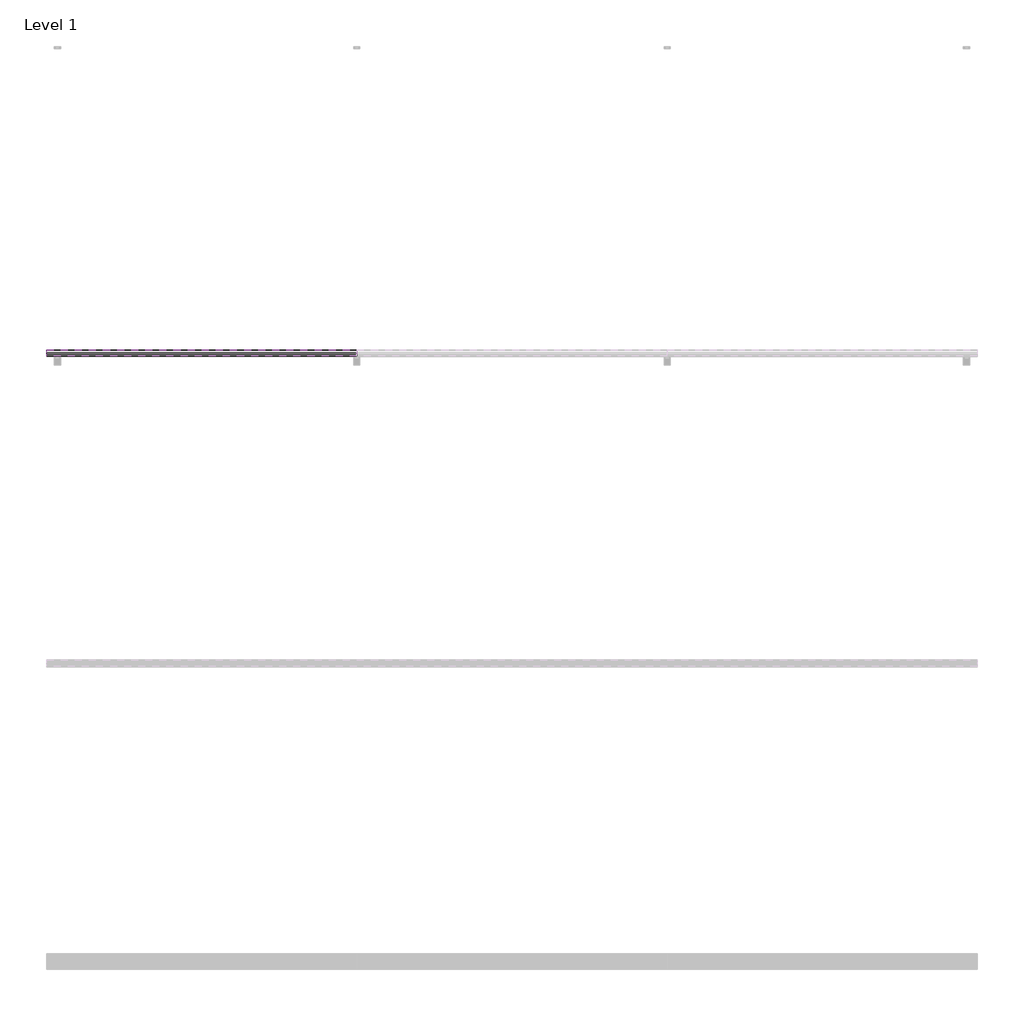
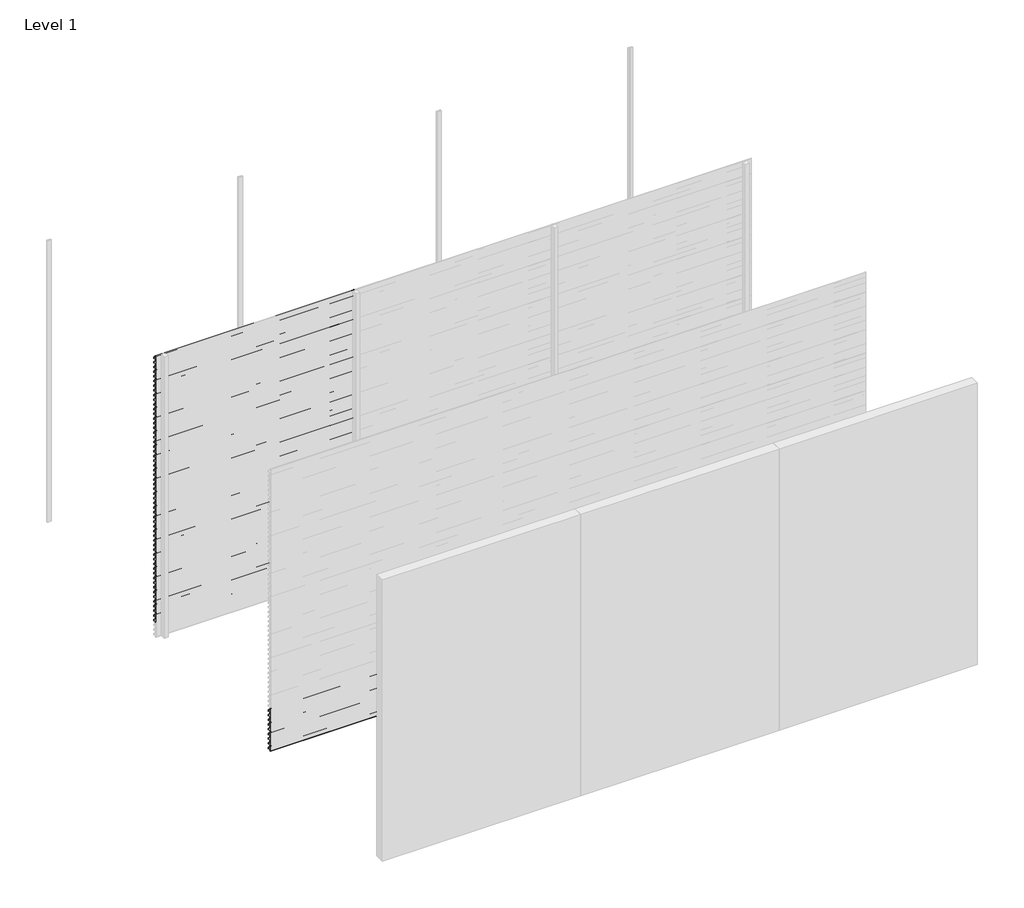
# One storey, part 18 of 38: 66 proxies.
"""IFC4 building model written with IfcOpenShell, lengths in millimetres."""

import ifcopenshell
import ifcopenshell.guid

model = None  # the IFC model being written
_history = None  # IfcOwnerHistory: only IFC2X3 demands one
_inside = {}  # id of a spatial element -> (the spatial element, [elements in it])
_under = {}  # id of a project, library or spatial element -> (it, [spatial elements below it])
_declared = {}  # id of a project -> (the project, [libraries it declares])
_typed = {}  # id of a type object -> (the type object, [elements of that type])
_made_of = {}  # id of a material, layer set ... -> (it, [elements and type objects made of it])


def new_model(schema):
    """Start an empty IFC model of exactly this schema.

    Asked for "IFC4X3", IfcOpenShell would pick the latest addendum, in which some entities
    have other attributes; the version numbers below select the first issue.
    IFC2X3 requires an IfcOwnerHistory on every rooted entity: one is made here for all.
    """
    global model, _history
    if schema == "IFC4X3":
        model = ifcopenshell.file(schema_version=(4, 3, 0, 0))
    else:
        model = ifcopenshell.file(schema=schema)
    _inside.clear()
    _under.clear()
    _declared.clear()
    _typed.clear()
    _made_of.clear()
    _history = None
    if model.schema == "IFC2X3":
        org = make("IfcOrganization", Name="unknown")
        user = make(
            "IfcPersonAndOrganization",
            ThePerson=make("IfcPerson", FamilyName="unknown"),
            TheOrganization=org,
        )
        app = make(
            "IfcApplication",
            ApplicationDeveloper=org,
            Version="unknown",
            ApplicationFullName="unknown",
            ApplicationIdentifier="unknown",
        )
        _history = make(
            "IfcOwnerHistory",
            OwningUser=user,
            OwningApplication=app,
            ChangeAction="ADDED",
            CreationDate=0,
        )
    return model


def make(cls, **values):
    """One entity of the class cls with the attributes given. An attribute that is None is left unset."""
    return model.create_entity(
        cls, **{name: value for name, value in values.items() if value is not None}
    )


def rooted(cls, **values):
    """An entity with a GlobalId (a new one), such as an element, a storey or a relation."""
    return make(cls, GlobalId=ifcopenshell.guid.new(), OwnerHistory=_history, **values)


def si_unit(unit_type, name, prefix=None):
    """IfcSIUnit, for example si_unit("LENGTHUNIT", "METRE", prefix="MILLI")."""
    return make("IfcSIUnit", UnitType=unit_type, Prefix=prefix, Name=name)


def assignment(units):
    """IfcUnitAssignment: the units of a project."""
    return None if units is None else make("IfcUnitAssignment", Units=units)


def point(xyz):
    """IfcCartesianPoint."""
    return None if xyz is None else make("IfcCartesianPoint", Coordinates=xyz)


def direction(xyz):
    """IfcDirection."""
    return None if xyz is None else make("IfcDirection", DirectionRatios=xyz)


def frame(location, z_axis=None, x_axis=None):
    """IfcAxis2Placement3D, a coordinate frame: its origin and axes. An axis left out is left unset."""
    return make(
        "IfcAxis2Placement3D",
        Location=point(location),
        Axis=direction(z_axis),
        RefDirection=direction(x_axis),
    )


def origin():
    """The frame at (0, 0, 0) with its axes left unset."""
    return frame((0.0, 0.0, 0.0))


def place(relative_to, where):
    """IfcLocalPlacement: puts the frame where relative to a parent placement (None: the world)."""
    return make(
        "IfcLocalPlacement", PlacementRelTo=relative_to, RelativePlacement=where
    )


def context(
    kind, dimensions, precision=None, world=None, true_north=None, identifier=None
):
    """IfcGeometricRepresentationContext, for example the 3D "Model" context."""
    return make(
        "IfcGeometricRepresentationContext",
        ContextIdentifier=identifier,
        ContextType=kind,
        CoordinateSpaceDimension=dimensions,
        Precision=precision,
        WorldCoordinateSystem=world,
        TrueNorth=true_north,
    )


def project(units=None, contexts=None):
    """IfcProject with its units and contexts."""
    return rooted(
        "IfcProject",
        Name="project",
        RepresentationContexts=contexts,
        UnitsInContext=assignment(units),
    )


def spatial(cls, under=None, at=None, **own):
    """A site, building, storey or space (cls), placed at a placement, below another one or the project."""
    s = rooted(cls, ObjectPlacement=at, **own)
    if under is not None:
        _under.setdefault(under.id(), (under, []))[1].append(s)
    return s


def polyline(points):
    """IfcPolyline through the points."""
    return make("IfcPolyline", Points=[point(p) for p in points])


def outline(outer, holes=None, kind="AREA"):
    """IfcArbitraryClosedProfileDef: a profile drawn as a closed curve; with holes, ...WithVoids."""
    if holes is None:
        return make("IfcArbitraryClosedProfileDef", ProfileType=kind, OuterCurve=outer)
    return make(
        "IfcArbitraryProfileDefWithVoids",
        ProfileType=kind,
        OuterCurve=outer,
        InnerCurves=holes,
    )


def extrude(swept, where, along, depth):
    """IfcExtrudedAreaSolid: the profile swept, set in the frame where, extruded along a direction by depth."""
    return make(
        "IfcExtrudedAreaSolid",
        SweptArea=swept,
        Position=where,
        ExtrudedDirection=direction(along),
        Depth=depth,
    )


def shape(context_of_items, identifier, shape_type, items):
    """IfcShapeRepresentation: the items that make up one representation, for example the "Body"."""
    return make(
        "IfcShapeRepresentation",
        ContextOfItems=context_of_items,
        RepresentationIdentifier=identifier,
        RepresentationType=shape_type,
        Items=items,
    )


def made_of(thing, what):
    """Note that an element or type object is made of a material, layer set ...; save() writes the relation."""
    if what is not None:
        _made_of.setdefault(what.id(), (what, []))[1].append(thing)
    return thing


def element(
    cls,
    number,
    at=None,
    inside=None,
    cuts=None,
    type_object=None,
    material=None,
    context=None,
    identifier="Body",
    shape_type=None,
    held_by="IfcProductDefinitionShape",
    body=None,
    shapes=None,
    **own,
):
    """One element of the class cls, such as IfcWall. Its Tag is "e" and its number.

    at: its placement. inside: the storey or other place that contains it. cuts: it is an
    opening in that element (IfcRelVoidsElement). A single representation is given by context,
    identifier, shape_type and body (its items); several are given by shapes. held_by: the class
    of the entity that holds the representations. save() writes the other relations.
    """
    e = rooted(cls, Tag="e%d" % number, ObjectPlacement=at, **own)
    if body is not None:
        shapes = [shape(context, identifier, shape_type, body)]
    if shapes is not None:
        e.Representation = make(held_by, Representations=shapes)
    if inside is not None:
        _inside.setdefault(inside.id(), (inside, []))[1].append(e)
    if cuts is not None:
        rooted(
            "IfcRelVoidsElement", RelatingBuildingElement=cuts, RelatedOpeningElement=e
        )
    if type_object is not None:
        _typed.setdefault(type_object.id(), (type_object, []))[1].append(e)
    return made_of(e, material)


def aggregate(whole, parts):
    """IfcRelAggregates: a whole, such as a stair, and the parts it consists of."""
    return rooted("IfcRelAggregates", RelatingObject=whole, RelatedObjects=parts)


def save(model, path):
    """Write the relations noted so far, then the file.

    IfcRelAggregates (storeys below a building ...), IfcRelContainedInSpatialStructure (elements
    in a storey), IfcRelDefinesByType, IfcRelAssociatesMaterial and IfcRelDeclares: one each for
    every whole, place, type object, material and project.
    """
    for whole, parts in _under.values():
        aggregate(whole, parts)
    for where, things in _inside.values():
        rooted(
            "IfcRelContainedInSpatialStructure",
            RelatedElements=things,
            RelatingStructure=where,
        )
    for kind, things in _typed.values():
        rooted("IfcRelDefinesByType", RelatedObjects=things, RelatingType=kind)
    for what, things in _made_of.values():
        rooted("IfcRelAssociatesMaterial", RelatedObjects=things, RelatingMaterial=what)
    for by, libraries in _declared.values():
        rooted("IfcRelDeclares", RelatingContext=by, RelatedDefinitions=libraries)
    model.write(path)


model = new_model("IFC4")

# Units and contexts
model_context = context("Model", 3, world=origin())
ifc_project = project(units=[si_unit("LENGTHUNIT", "METRE", prefix="MILLI")], contexts=[model_context])

# Site, building, storey
site = spatial("IfcSite", under=ifc_project)
building = spatial("IfcBuilding", under=site)
storey = spatial("IfcBuildingStorey", under=building, Name="Level 1", Elevation=0.0)

# Proxies
placement = place(None, origin())
element("IfcBuildingElementProxy", 1, Name="Wall Sweeps", at=placement, inside=storey, context=model_context, shape_type="SweptSolid", body=[
    extrude(outline(polyline([(-29996.75, 3000.0), (-29996.75, 2989.19656), (-29974.6057113, 2976.4115489), (-29957.0, 2959.0472005), (-29957.0, 2944.0472005), (-29958.3, 2945.0268207), (-29958.3, 2958.5034593), (-29969.4914725, 2969.541504), (-29994.2797376, 2940.0), (-29995.9767671, 2940.0), (-29970.4200307, 2970.4573323), (-29975.3999793, 2975.3690091), (-29998.0, 2988.4171371), (-29998.0, 3000.0), (-29996.75, 3000.0)])), frame((0.0, 0.0, 0.0), z_axis=(1.0, 0.0, 0.0), x_axis=(0.0, 1.0, 0.0)), (0.0, 0.0, 1.0), 2000.0),
])
element("IfcBuildingElementProxy", 2, Name="Wall Sweeps", at=placement, inside=storey, context=model_context, shape_type="SweptSolid", body=[
    extrude(outline(polyline([(-29996.75, 2950.0), (-29996.75, 2939.19656), (-29974.6057113, 2926.4115489), (-29957.0, 2909.0472005), (-29957.0, 2894.0472005), (-29958.3, 2895.0268207), (-29958.3, 2908.5034593), (-29969.4914725, 2919.541504), (-29994.2797376, 2890.0), (-29995.9767671, 2890.0), (-29970.4200307, 2920.4573323), (-29975.3999793, 2925.3690091), (-29998.0, 2938.4171371), (-29998.0, 2950.0), (-29996.75, 2950.0)])), frame((0.0, 0.0, 0.0), z_axis=(1.0, 0.0, 0.0), x_axis=(0.0, 1.0, 0.0)), (0.0, 0.0, 1.0), 2000.0),
])
element("IfcBuildingElementProxy", 3, Name="Wall Sweeps", at=placement, inside=storey, context=model_context, shape_type="SweptSolid", body=[
    extrude(outline(polyline([(-29996.75, 2900.0), (-29996.75, 2889.19656), (-29974.6057113, 2876.4115489), (-29957.0, 2859.0472005), (-29957.0, 2844.0472005), (-29958.3, 2845.0268207), (-29958.3, 2858.5034593), (-29969.4914725, 2869.541504), (-29994.2797376, 2840.0), (-29995.9767671, 2840.0), (-29970.4200307, 2870.4573323), (-29975.3999793, 2875.3690091), (-29998.0, 2888.4171371), (-29998.0, 2900.0), (-29996.75, 2900.0)])), frame((0.0, 0.0, 0.0), z_axis=(1.0, 0.0, 0.0), x_axis=(0.0, 1.0, 0.0)), (0.0, 0.0, 1.0), 2000.0),
])
element("IfcBuildingElementProxy", 4, Name="Wall Sweeps", at=placement, inside=storey, context=model_context, shape_type="SweptSolid", body=[
    extrude(outline(polyline([(-29996.75, 2850.0), (-29996.75, 2839.19656), (-29974.6057113, 2826.4115489), (-29957.0, 2809.0472005), (-29957.0, 2794.0472005), (-29958.3, 2795.0268207), (-29958.3, 2808.5034593), (-29969.4914725, 2819.541504), (-29994.2797376, 2790.0), (-29995.9767671, 2790.0), (-29970.4200307, 2820.4573323), (-29975.3999793, 2825.3690091), (-29998.0, 2838.4171371), (-29998.0, 2850.0), (-29996.75, 2850.0)])), frame((0.0, 0.0, 0.0), z_axis=(1.0, 0.0, 0.0), x_axis=(0.0, 1.0, 0.0)), (0.0, 0.0, 1.0), 2000.0),
])
element("IfcBuildingElementProxy", 5, Name="Wall Sweeps", at=placement, inside=storey, context=model_context, shape_type="SweptSolid", body=[
    extrude(outline(polyline([(-29996.75, 2800.0), (-29996.75, 2789.19656), (-29974.6057113, 2776.4115489), (-29957.0, 2759.0472005), (-29957.0, 2744.0472005), (-29958.3, 2745.0268207), (-29958.3, 2758.5034593), (-29969.4914725, 2769.541504), (-29994.2797376, 2740.0), (-29995.9767671, 2740.0), (-29970.4200307, 2770.4573323), (-29975.3999793, 2775.3690091), (-29998.0, 2788.4171371), (-29998.0, 2800.0), (-29996.75, 2800.0)])), frame((0.0, 0.0, 0.0), z_axis=(1.0, 0.0, 0.0), x_axis=(0.0, 1.0, 0.0)), (0.0, 0.0, 1.0), 2000.0),
])
element("IfcBuildingElementProxy", 6, Name="Wall Sweeps", at=placement, inside=storey, context=model_context, shape_type="SweptSolid", body=[
    extrude(outline(polyline([(-29996.75, 2750.0), (-29996.75, 2739.19656), (-29974.6057113, 2726.4115489), (-29957.0, 2709.0472005), (-29957.0, 2694.0472005), (-29958.3, 2695.0268207), (-29958.3, 2708.5034593), (-29969.4914725, 2719.541504), (-29994.2797376, 2690.0), (-29995.9767671, 2690.0), (-29970.4200307, 2720.4573323), (-29975.3999793, 2725.3690091), (-29998.0, 2738.4171371), (-29998.0, 2750.0), (-29996.75, 2750.0)])), frame((0.0, 0.0, 0.0), z_axis=(1.0, 0.0, 0.0), x_axis=(0.0, 1.0, 0.0)), (0.0, 0.0, 1.0), 2000.0),
])
element("IfcBuildingElementProxy", 7, Name="Wall Sweeps", at=placement, inside=storey, context=model_context, shape_type="SweptSolid", body=[
    extrude(outline(polyline([(-29996.75, 2700.0), (-29996.75, 2689.19656), (-29974.6057113, 2676.4115489), (-29957.0, 2659.0472005), (-29957.0, 2644.0472005), (-29958.3, 2645.0268207), (-29958.3, 2658.5034593), (-29969.4914725, 2669.541504), (-29994.2797376, 2640.0), (-29995.9767671, 2640.0), (-29970.4200307, 2670.4573323), (-29975.3999793, 2675.3690091), (-29998.0, 2688.4171371), (-29998.0, 2700.0), (-29996.75, 2700.0)])), frame((0.0, 0.0, 0.0), z_axis=(1.0, 0.0, 0.0), x_axis=(0.0, 1.0, 0.0)), (0.0, 0.0, 1.0), 2000.0),
])
element("IfcBuildingElementProxy", 8, Name="Wall Sweeps", at=placement, inside=storey, context=model_context, shape_type="SweptSolid", body=[
    extrude(outline(polyline([(-29996.75, 2650.0), (-29996.75, 2639.19656), (-29974.6057113, 2626.4115489), (-29957.0, 2609.0472005), (-29957.0, 2594.0472005), (-29958.3, 2595.0268207), (-29958.3, 2608.5034593), (-29969.4914725, 2619.541504), (-29994.2797376, 2590.0), (-29995.9767671, 2590.0), (-29970.4200307, 2620.4573323), (-29975.3999793, 2625.3690091), (-29998.0, 2638.4171371), (-29998.0, 2650.0), (-29996.75, 2650.0)])), frame((0.0, 0.0, 0.0), z_axis=(1.0, 0.0, 0.0), x_axis=(0.0, 1.0, 0.0)), (0.0, 0.0, 1.0), 2000.0),
])
element("IfcBuildingElementProxy", 9, Name="Wall Sweeps", at=placement, inside=storey, context=model_context, shape_type="SweptSolid", body=[
    extrude(outline(polyline([(-29996.75, 2600.0), (-29996.75, 2589.19656), (-29974.6057113, 2576.4115489), (-29957.0, 2559.0472005), (-29957.0, 2544.0472005), (-29958.3, 2545.0268207), (-29958.3, 2558.5034593), (-29969.4914725, 2569.541504), (-29994.2797376, 2540.0), (-29995.9767671, 2540.0), (-29970.4200307, 2570.4573323), (-29975.3999793, 2575.3690091), (-29998.0, 2588.4171371), (-29998.0, 2600.0), (-29996.75, 2600.0)])), frame((0.0, 0.0, 0.0), z_axis=(1.0, 0.0, 0.0), x_axis=(0.0, 1.0, 0.0)), (0.0, 0.0, 1.0), 2000.0),
])
element("IfcBuildingElementProxy", 10, Name="Wall Sweeps", at=placement, inside=storey, context=model_context, shape_type="SweptSolid", body=[
    extrude(outline(polyline([(-29996.75, 2550.0), (-29996.75, 2539.19656), (-29974.6057113, 2526.4115489), (-29957.0, 2509.0472005), (-29957.0, 2494.0472005), (-29958.3, 2495.0268207), (-29958.3, 2508.5034593), (-29969.4914725, 2519.541504), (-29994.2797376, 2490.0), (-29995.9767671, 2490.0), (-29970.4200307, 2520.4573323), (-29975.3999793, 2525.3690091), (-29998.0, 2538.4171371), (-29998.0, 2550.0), (-29996.75, 2550.0)])), frame((0.0, 0.0, 0.0), z_axis=(1.0, 0.0, 0.0), x_axis=(0.0, 1.0, 0.0)), (0.0, 0.0, 1.0), 2000.0),
])
element("IfcBuildingElementProxy", 11, Name="Wall Sweeps", at=placement, inside=storey, context=model_context, shape_type="SweptSolid", body=[
    extrude(outline(polyline([(-29996.75, 2500.0), (-29996.75, 2489.19656), (-29974.6057113, 2476.4115489), (-29957.0, 2459.0472005), (-29957.0, 2444.0472005), (-29958.3, 2445.0268207), (-29958.3, 2458.5034593), (-29969.4914725, 2469.541504), (-29994.2797376, 2440.0), (-29995.9767671, 2440.0), (-29970.4200307, 2470.4573323), (-29975.3999793, 2475.3690091), (-29998.0, 2488.4171371), (-29998.0, 2500.0), (-29996.75, 2500.0)])), frame((0.0, 0.0, 0.0), z_axis=(1.0, 0.0, 0.0), x_axis=(0.0, 1.0, 0.0)), (0.0, 0.0, 1.0), 2000.0),
])
element("IfcBuildingElementProxy", 12, Name="Wall Sweeps", at=placement, inside=storey, context=model_context, shape_type="SweptSolid", body=[
    extrude(outline(polyline([(-29996.75, 2450.0), (-29996.75, 2439.19656), (-29974.6057113, 2426.4115489), (-29957.0, 2409.0472005), (-29957.0, 2394.0472005), (-29958.3, 2395.0268207), (-29958.3, 2408.5034593), (-29969.4914725, 2419.541504), (-29994.2797376, 2390.0), (-29995.9767671, 2390.0), (-29970.4200307, 2420.4573323), (-29975.3999793, 2425.3690091), (-29998.0, 2438.4171371), (-29998.0, 2450.0), (-29996.75, 2450.0)])), frame((0.0, 0.0, 0.0), z_axis=(1.0, 0.0, 0.0), x_axis=(0.0, 1.0, 0.0)), (0.0, 0.0, 1.0), 2000.0),
])
element("IfcBuildingElementProxy", 13, Name="Wall Sweeps", at=placement, inside=storey, context=model_context, shape_type="SweptSolid", body=[
    extrude(outline(polyline([(-29996.75, 2400.0), (-29996.75, 2389.19656), (-29974.6057113, 2376.4115489), (-29957.0, 2359.0472005), (-29957.0, 2344.0472005), (-29958.3, 2345.0268207), (-29958.3, 2358.5034593), (-29969.4914725, 2369.541504), (-29994.2797376, 2340.0), (-29995.9767671, 2340.0), (-29970.4200307, 2370.4573323), (-29975.3999793, 2375.3690091), (-29998.0, 2388.4171371), (-29998.0, 2400.0), (-29996.75, 2400.0)])), frame((0.0, 0.0, 0.0), z_axis=(1.0, 0.0, 0.0), x_axis=(0.0, 1.0, 0.0)), (0.0, 0.0, 1.0), 2000.0),
])
element("IfcBuildingElementProxy", 14, Name="Wall Sweeps", at=placement, inside=storey, context=model_context, shape_type="SweptSolid", body=[
    extrude(outline(polyline([(-29996.75, 2350.0), (-29996.75, 2339.19656), (-29974.6057113, 2326.4115489), (-29957.0, 2309.0472005), (-29957.0, 2294.0472005), (-29958.3, 2295.0268207), (-29958.3, 2308.5034593), (-29969.4914725, 2319.541504), (-29994.2797376, 2290.0), (-29995.9767671, 2290.0), (-29970.4200307, 2320.4573323), (-29975.3999793, 2325.3690091), (-29998.0, 2338.4171371), (-29998.0, 2350.0), (-29996.75, 2350.0)])), frame((0.0, 0.0, 0.0), z_axis=(1.0, 0.0, 0.0), x_axis=(0.0, 1.0, 0.0)), (0.0, 0.0, 1.0), 2000.0),
])
element("IfcBuildingElementProxy", 15, Name="Wall Sweeps", at=placement, inside=storey, context=model_context, shape_type="SweptSolid", body=[
    extrude(outline(polyline([(-29996.75, 2300.0), (-29996.75, 2289.19656), (-29974.6057113, 2276.4115489), (-29957.0, 2259.0472005), (-29957.0, 2244.0472005), (-29958.3, 2245.0268207), (-29958.3, 2258.5034593), (-29969.4914725, 2269.541504), (-29994.2797376, 2240.0), (-29995.9767671, 2240.0), (-29970.4200307, 2270.4573323), (-29975.3999793, 2275.3690091), (-29998.0, 2288.4171371), (-29998.0, 2300.0), (-29996.75, 2300.0)])), frame((0.0, 0.0, 0.0), z_axis=(1.0, 0.0, 0.0), x_axis=(0.0, 1.0, 0.0)), (0.0, 0.0, 1.0), 2000.0),
])
element("IfcBuildingElementProxy", 16, Name="Wall Sweeps", at=placement, inside=storey, context=model_context, shape_type="SweptSolid", body=[
    extrude(outline(polyline([(-29996.75, 2250.0), (-29996.75, 2239.19656), (-29974.6057113, 2226.4115489), (-29957.0, 2209.0472005), (-29957.0, 2194.0472005), (-29958.3, 2195.0268207), (-29958.3, 2208.5034593), (-29969.4914725, 2219.541504), (-29994.2797376, 2190.0), (-29995.9767671, 2190.0), (-29970.4200307, 2220.4573323), (-29975.3999793, 2225.3690091), (-29998.0, 2238.4171371), (-29998.0, 2250.0), (-29996.75, 2250.0)])), frame((0.0, 0.0, 0.0), z_axis=(1.0, 0.0, 0.0), x_axis=(0.0, 1.0, 0.0)), (0.0, 0.0, 1.0), 2000.0),
])
element("IfcBuildingElementProxy", 17, Name="Wall Sweeps", at=placement, inside=storey, context=model_context, shape_type="SweptSolid", body=[
    extrude(outline(polyline([(-29996.75, 2200.0), (-29996.75, 2189.19656), (-29974.6057113, 2176.4115489), (-29957.0, 2159.0472005), (-29957.0, 2144.0472005), (-29958.3, 2145.0268207), (-29958.3, 2158.5034593), (-29969.4914725, 2169.541504), (-29994.2797376, 2140.0), (-29995.9767671, 2140.0), (-29970.4200307, 2170.4573323), (-29975.3999793, 2175.3690091), (-29998.0, 2188.4171371), (-29998.0, 2200.0), (-29996.75, 2200.0)])), frame((0.0, 0.0, 0.0), z_axis=(1.0, 0.0, 0.0), x_axis=(0.0, 1.0, 0.0)), (0.0, 0.0, 1.0), 2000.0),
])
element("IfcBuildingElementProxy", 18, Name="Wall Sweeps", at=placement, inside=storey, context=model_context, shape_type="SweptSolid", body=[
    extrude(outline(polyline([(-29996.75, 2150.0), (-29996.75, 2139.19656), (-29974.6057113, 2126.4115489), (-29957.0, 2109.0472005), (-29957.0, 2094.0472005), (-29958.3, 2095.0268207), (-29958.3, 2108.5034593), (-29969.4914725, 2119.541504), (-29994.2797376, 2090.0), (-29995.9767671, 2090.0), (-29970.4200307, 2120.4573323), (-29975.3999793, 2125.3690091), (-29998.0, 2138.4171371), (-29998.0, 2150.0), (-29996.75, 2150.0)])), frame((0.0, 0.0, 0.0), z_axis=(1.0, 0.0, 0.0), x_axis=(0.0, 1.0, 0.0)), (0.0, 0.0, 1.0), 2000.0),
])
element("IfcBuildingElementProxy", 19, Name="Wall Sweeps", at=placement, inside=storey, context=model_context, shape_type="SweptSolid", body=[
    extrude(outline(polyline([(-29996.75, 2100.0), (-29996.75, 2089.19656), (-29974.6057113, 2076.4115489), (-29957.0, 2059.0472005), (-29957.0, 2044.0472005), (-29958.3, 2045.0268207), (-29958.3, 2058.5034593), (-29969.4914725, 2069.541504), (-29994.2797376, 2040.0), (-29995.9767671, 2040.0), (-29970.4200307, 2070.4573323), (-29975.3999793, 2075.3690091), (-29998.0, 2088.4171371), (-29998.0, 2100.0), (-29996.75, 2100.0)])), frame((0.0, 0.0, 0.0), z_axis=(1.0, 0.0, 0.0), x_axis=(0.0, 1.0, 0.0)), (0.0, 0.0, 1.0), 2000.0),
])
element("IfcBuildingElementProxy", 20, Name="Wall Sweeps", at=placement, inside=storey, context=model_context, shape_type="SweptSolid", body=[
    extrude(outline(polyline([(-29996.75, 2050.0), (-29996.75, 2039.19656), (-29974.6057113, 2026.4115489), (-29957.0, 2009.0472005), (-29957.0, 1994.0472005), (-29958.3, 1995.0268207), (-29958.3, 2008.5034593), (-29969.4914725, 2019.541504), (-29994.2797376, 1990.0), (-29995.9767671, 1990.0), (-29970.4200307, 2020.4573323), (-29975.3999793, 2025.3690091), (-29998.0, 2038.4171371), (-29998.0, 2050.0), (-29996.75, 2050.0)])), frame((0.0, 0.0, 0.0), z_axis=(1.0, 0.0, 0.0), x_axis=(0.0, 1.0, 0.0)), (0.0, 0.0, 1.0), 2000.0),
])
element("IfcBuildingElementProxy", 21, Name="Wall Sweeps", at=placement, inside=storey, context=model_context, shape_type="SweptSolid", body=[
    extrude(outline(polyline([(-29996.75, 2000.0), (-29996.75, 1989.19656), (-29974.6057113, 1976.4115489), (-29957.0, 1959.0472005), (-29957.0, 1944.0472005), (-29958.3, 1945.0268207), (-29958.3, 1958.5034593), (-29969.4914725, 1969.541504), (-29994.2797376, 1940.0), (-29995.9767671, 1940.0), (-29970.4200307, 1970.4573323), (-29975.3999793, 1975.3690091), (-29998.0, 1988.4171371), (-29998.0, 2000.0), (-29996.75, 2000.0)])), frame((0.0, 0.0, 0.0), z_axis=(1.0, 0.0, 0.0), x_axis=(0.0, 1.0, 0.0)), (0.0, 0.0, 1.0), 2000.0),
])
element("IfcBuildingElementProxy", 22, Name="Wall Sweeps", at=placement, inside=storey, context=model_context, shape_type="SweptSolid", body=[
    extrude(outline(polyline([(-29996.75, 1950.0), (-29996.75, 1939.19656), (-29974.6057113, 1926.4115489), (-29957.0, 1909.0472005), (-29957.0, 1894.0472005), (-29958.3, 1895.0268207), (-29958.3, 1908.5034593), (-29969.4914725, 1919.541504), (-29994.2797376, 1890.0), (-29995.9767671, 1890.0), (-29970.4200307, 1920.4573323), (-29975.3999793, 1925.3690091), (-29998.0, 1938.4171371), (-29998.0, 1950.0), (-29996.75, 1950.0)])), frame((0.0, 0.0, 0.0), z_axis=(1.0, 0.0, 0.0), x_axis=(0.0, 1.0, 0.0)), (0.0, 0.0, 1.0), 2000.0),
])
element("IfcBuildingElementProxy", 23, Name="Wall Sweeps", at=placement, inside=storey, context=model_context, shape_type="SweptSolid", body=[
    extrude(outline(polyline([(-29996.75, 1900.0), (-29996.75, 1889.19656), (-29974.6057113, 1876.4115489), (-29957.0, 1859.0472005), (-29957.0, 1844.0472005), (-29958.3, 1845.0268207), (-29958.3, 1858.5034593), (-29969.4914725, 1869.541504), (-29994.2797376, 1840.0), (-29995.9767671, 1840.0), (-29970.4200307, 1870.4573323), (-29975.3999793, 1875.3690091), (-29998.0, 1888.4171371), (-29998.0, 1900.0), (-29996.75, 1900.0)])), frame((0.0, 0.0, 0.0), z_axis=(1.0, 0.0, 0.0), x_axis=(0.0, 1.0, 0.0)), (0.0, 0.0, 1.0), 2000.0),
])
element("IfcBuildingElementProxy", 24, Name="Wall Sweeps", at=placement, inside=storey, context=model_context, shape_type="SweptSolid", body=[
    extrude(outline(polyline([(-29996.75, 1850.0), (-29996.75, 1839.19656), (-29974.6057113, 1826.4115489), (-29957.0, 1809.0472005), (-29957.0, 1794.0472005), (-29958.3, 1795.0268207), (-29958.3, 1808.5034593), (-29969.4914725, 1819.541504), (-29994.2797376, 1790.0), (-29995.9767671, 1790.0), (-29970.4200307, 1820.4573323), (-29975.3999793, 1825.3690091), (-29998.0, 1838.4171371), (-29998.0, 1850.0), (-29996.75, 1850.0)])), frame((0.0, 0.0, 0.0), z_axis=(1.0, 0.0, 0.0), x_axis=(0.0, 1.0, 0.0)), (0.0, 0.0, 1.0), 2000.0),
])
element("IfcBuildingElementProxy", 25, Name="Wall Sweeps", at=placement, inside=storey, context=model_context, shape_type="SweptSolid", body=[
    extrude(outline(polyline([(-29996.75, 1800.0), (-29996.75, 1789.19656), (-29974.6057113, 1776.4115489), (-29957.0, 1759.0472005), (-29957.0, 1744.0472005), (-29958.3, 1745.0268207), (-29958.3, 1758.5034593), (-29969.4914725, 1769.541504), (-29994.2797376, 1740.0), (-29995.9767671, 1740.0), (-29970.4200307, 1770.4573323), (-29975.3999793, 1775.3690091), (-29998.0, 1788.4171371), (-29998.0, 1800.0), (-29996.75, 1800.0)])), frame((0.0, 0.0, 0.0), z_axis=(1.0, 0.0, 0.0), x_axis=(0.0, 1.0, 0.0)), (0.0, 0.0, 1.0), 2000.0),
])
element("IfcBuildingElementProxy", 26, Name="Wall Sweeps", at=placement, inside=storey, context=model_context, shape_type="SweptSolid", body=[
    extrude(outline(polyline([(-29996.75, 1750.0), (-29996.75, 1739.19656), (-29974.6057113, 1726.4115489), (-29957.0, 1709.0472005), (-29957.0, 1694.0472005), (-29958.3, 1695.0268207), (-29958.3, 1708.5034593), (-29969.4914725, 1719.541504), (-29994.2797376, 1690.0), (-29995.9767671, 1690.0), (-29970.4200307, 1720.4573323), (-29975.3999793, 1725.3690091), (-29998.0, 1738.4171371), (-29998.0, 1750.0), (-29996.75, 1750.0)])), frame((0.0, 0.0, 0.0), z_axis=(1.0, 0.0, 0.0), x_axis=(0.0, 1.0, 0.0)), (0.0, 0.0, 1.0), 2000.0),
])
element("IfcBuildingElementProxy", 27, Name="Wall Sweeps", at=placement, inside=storey, context=model_context, shape_type="SweptSolid", body=[
    extrude(outline(polyline([(-29996.75, 1700.0), (-29996.75, 1689.19656), (-29974.6057113, 1676.4115489), (-29957.0, 1659.0472005), (-29957.0, 1644.0472005), (-29958.3, 1645.0268207), (-29958.3, 1658.5034593), (-29969.4914725, 1669.541504), (-29994.2797376, 1640.0), (-29995.9767671, 1640.0), (-29970.4200307, 1670.4573323), (-29975.3999793, 1675.3690091), (-29998.0, 1688.4171371), (-29998.0, 1700.0), (-29996.75, 1700.0)])), frame((0.0, 0.0, 0.0), z_axis=(1.0, 0.0, 0.0), x_axis=(0.0, 1.0, 0.0)), (0.0, 0.0, 1.0), 2000.0),
])
element("IfcBuildingElementProxy", 28, Name="Wall Sweeps", at=placement, inside=storey, context=model_context, shape_type="SweptSolid", body=[
    extrude(outline(polyline([(-29996.75, 1650.0), (-29996.75, 1639.19656), (-29974.6057113, 1626.4115489), (-29957.0, 1609.0472005), (-29957.0, 1594.0472005), (-29958.3, 1595.0268207), (-29958.3, 1608.5034593), (-29969.4914725, 1619.541504), (-29994.2797376, 1590.0), (-29995.9767671, 1590.0), (-29970.4200307, 1620.4573323), (-29975.3999793, 1625.3690091), (-29998.0, 1638.4171371), (-29998.0, 1650.0), (-29996.75, 1650.0)])), frame((0.0, 0.0, 0.0), z_axis=(1.0, 0.0, 0.0), x_axis=(0.0, 1.0, 0.0)), (0.0, 0.0, 1.0), 2000.0),
])
element("IfcBuildingElementProxy", 29, Name="Wall Sweeps", at=placement, inside=storey, context=model_context, shape_type="SweptSolid", body=[
    extrude(outline(polyline([(-29996.75, 1600.0), (-29996.75, 1589.19656), (-29974.6057113, 1576.4115489), (-29957.0, 1559.0472005), (-29957.0, 1544.0472005), (-29958.3, 1545.0268207), (-29958.3, 1558.5034593), (-29969.4914725, 1569.541504), (-29994.2797376, 1540.0), (-29995.9767671, 1540.0), (-29970.4200307, 1570.4573323), (-29975.3999793, 1575.3690091), (-29998.0, 1588.4171371), (-29998.0, 1600.0), (-29996.75, 1600.0)])), frame((0.0, 0.0, 0.0), z_axis=(1.0, 0.0, 0.0), x_axis=(0.0, 1.0, 0.0)), (0.0, 0.0, 1.0), 2000.0),
])
element("IfcBuildingElementProxy", 30, Name="Wall Sweeps", at=placement, inside=storey, context=model_context, shape_type="SweptSolid", body=[
    extrude(outline(polyline([(-29996.75, 1550.0), (-29996.75, 1539.19656), (-29974.6057113, 1526.4115489), (-29957.0, 1509.0472005), (-29957.0, 1494.0472005), (-29958.3, 1495.0268207), (-29958.3, 1508.5034593), (-29969.4914725, 1519.541504), (-29994.2797376, 1490.0), (-29995.9767671, 1490.0), (-29970.4200307, 1520.4573323), (-29975.3999793, 1525.3690091), (-29998.0, 1538.4171371), (-29998.0, 1550.0), (-29996.75, 1550.0)])), frame((0.0, 0.0, 0.0), z_axis=(1.0, 0.0, 0.0), x_axis=(0.0, 1.0, 0.0)), (0.0, 0.0, 1.0), 2000.0),
])
element("IfcBuildingElementProxy", 31, Name="Wall Sweeps", at=placement, inside=storey, context=model_context, shape_type="SweptSolid", body=[
    extrude(outline(polyline([(-29996.75, 1500.0), (-29996.75, 1489.19656), (-29974.6057113, 1476.4115489), (-29957.0, 1459.0472005), (-29957.0, 1444.0472005), (-29958.3, 1445.0268207), (-29958.3, 1458.5034593), (-29969.4914725, 1469.541504), (-29994.2797376, 1440.0), (-29995.9767671, 1440.0), (-29970.4200307, 1470.4573323), (-29975.3999793, 1475.3690091), (-29998.0, 1488.4171371), (-29998.0, 1500.0), (-29996.75, 1500.0)])), frame((0.0, 0.0, 0.0), z_axis=(1.0, 0.0, 0.0), x_axis=(0.0, 1.0, 0.0)), (0.0, 0.0, 1.0), 2000.0),
])
element("IfcBuildingElementProxy", 32, Name="Wall Sweeps", at=placement, inside=storey, context=model_context, shape_type="SweptSolid", body=[
    extrude(outline(polyline([(-29996.75, 1450.0), (-29996.75, 1439.19656), (-29974.6057113, 1426.4115489), (-29957.0, 1409.0472005), (-29957.0, 1394.0472005), (-29958.3, 1395.0268207), (-29958.3, 1408.5034593), (-29969.4914725, 1419.541504), (-29994.2797376, 1390.0), (-29995.9767671, 1390.0), (-29970.4200307, 1420.4573323), (-29975.3999793, 1425.3690091), (-29998.0, 1438.4171371), (-29998.0, 1450.0), (-29996.75, 1450.0)])), frame((0.0, 0.0, 0.0), z_axis=(1.0, 0.0, 0.0), x_axis=(0.0, 1.0, 0.0)), (0.0, 0.0, 1.0), 2000.0),
])
element("IfcBuildingElementProxy", 33, Name="Wall Sweeps", at=placement, inside=storey, context=model_context, shape_type="SweptSolid", body=[
    extrude(outline(polyline([(-29996.75, 1400.0), (-29996.75, 1389.19656), (-29974.6057113, 1376.4115489), (-29957.0, 1359.0472005), (-29957.0, 1344.0472005), (-29958.3, 1345.0268207), (-29958.3, 1358.5034593), (-29969.4914725, 1369.541504), (-29994.2797376, 1340.0), (-29995.9767671, 1340.0), (-29970.4200307, 1370.4573323), (-29975.3999793, 1375.3690091), (-29998.0, 1388.4171371), (-29998.0, 1400.0), (-29996.75, 1400.0)])), frame((0.0, 0.0, 0.0), z_axis=(1.0, 0.0, 0.0), x_axis=(0.0, 1.0, 0.0)), (0.0, 0.0, 1.0), 2000.0),
])
element("IfcBuildingElementProxy", 34, Name="Wall Sweeps", at=placement, inside=storey, context=model_context, shape_type="SweptSolid", body=[
    extrude(outline(polyline([(-29996.75, 1350.0), (-29996.75, 1339.19656), (-29974.6057113, 1326.4115489), (-29957.0, 1309.0472005), (-29957.0, 1294.0472005), (-29958.3, 1295.0268207), (-29958.3, 1308.5034593), (-29969.4914725, 1319.541504), (-29994.2797376, 1290.0), (-29995.9767671, 1290.0), (-29970.4200307, 1320.4573323), (-29975.3999793, 1325.3690091), (-29998.0, 1338.4171371), (-29998.0, 1350.0), (-29996.75, 1350.0)])), frame((0.0, 0.0, 0.0), z_axis=(1.0, 0.0, 0.0), x_axis=(0.0, 1.0, 0.0)), (0.0, 0.0, 1.0), 2000.0),
])
element("IfcBuildingElementProxy", 35, Name="Wall Sweeps", at=placement, inside=storey, context=model_context, shape_type="SweptSolid", body=[
    extrude(outline(polyline([(-29996.75, 1300.0), (-29996.75, 1289.19656), (-29974.6057113, 1276.4115489), (-29957.0, 1259.0472005), (-29957.0, 1244.0472005), (-29958.3, 1245.0268207), (-29958.3, 1258.5034593), (-29969.4914725, 1269.541504), (-29994.2797376, 1240.0), (-29995.9767671, 1240.0), (-29970.4200307, 1270.4573323), (-29975.3999793, 1275.3690091), (-29998.0, 1288.4171371), (-29998.0, 1300.0), (-29996.75, 1300.0)])), frame((0.0, 0.0, 0.0), z_axis=(1.0, 0.0, 0.0), x_axis=(0.0, 1.0, 0.0)), (0.0, 0.0, 1.0), 2000.0),
])
element("IfcBuildingElementProxy", 36, Name="Wall Sweeps", at=placement, inside=storey, context=model_context, shape_type="SweptSolid", body=[
    extrude(outline(polyline([(-29996.75, 1250.0), (-29996.75, 1239.19656), (-29974.6057113, 1226.4115489), (-29957.0, 1209.0472005), (-29957.0, 1194.0472005), (-29958.3, 1195.0268207), (-29958.3, 1208.5034593), (-29969.4914725, 1219.541504), (-29994.2797376, 1190.0), (-29995.9767671, 1190.0), (-29970.4200307, 1220.4573323), (-29975.3999793, 1225.3690091), (-29998.0, 1238.4171371), (-29998.0, 1250.0), (-29996.75, 1250.0)])), frame((0.0, 0.0, 0.0), z_axis=(1.0, 0.0, 0.0), x_axis=(0.0, 1.0, 0.0)), (0.0, 0.0, 1.0), 2000.0),
])
element("IfcBuildingElementProxy", 37, Name="Wall Sweeps", at=placement, inside=storey, context=model_context, shape_type="SweptSolid", body=[
    extrude(outline(polyline([(-29996.75, 1200.0), (-29996.75, 1189.19656), (-29974.6057113, 1176.4115489), (-29957.0, 1159.0472005), (-29957.0, 1144.0472005), (-29958.3, 1145.0268207), (-29958.3, 1158.5034593), (-29969.4914725, 1169.541504), (-29994.2797376, 1140.0), (-29995.9767671, 1140.0), (-29970.4200307, 1170.4573323), (-29975.3999793, 1175.3690091), (-29998.0, 1188.4171371), (-29998.0, 1200.0), (-29996.75, 1200.0)])), frame((0.0, 0.0, 0.0), z_axis=(1.0, 0.0, 0.0), x_axis=(0.0, 1.0, 0.0)), (0.0, 0.0, 1.0), 2000.0),
])
element("IfcBuildingElementProxy", 38, Name="Wall Sweeps", at=placement, inside=storey, context=model_context, shape_type="SweptSolid", body=[
    extrude(outline(polyline([(-29996.75, 1150.0), (-29996.75, 1139.19656), (-29974.6057113, 1126.4115489), (-29957.0, 1109.0472005), (-29957.0, 1094.0472005), (-29958.3, 1095.0268207), (-29958.3, 1108.5034593), (-29969.4914725, 1119.541504), (-29994.2797376, 1090.0), (-29995.9767671, 1090.0), (-29970.4200307, 1120.4573323), (-29975.3999793, 1125.3690091), (-29998.0, 1138.4171371), (-29998.0, 1150.0), (-29996.75, 1150.0)])), frame((0.0, 0.0, 0.0), z_axis=(1.0, 0.0, 0.0), x_axis=(0.0, 1.0, 0.0)), (0.0, 0.0, 1.0), 2000.0),
])
element("IfcBuildingElementProxy", 39, Name="Wall Sweeps", at=placement, inside=storey, context=model_context, shape_type="SweptSolid", body=[
    extrude(outline(polyline([(-29996.75, 1100.0), (-29996.75, 1089.19656), (-29974.6057113, 1076.4115489), (-29957.0, 1059.0472005), (-29957.0, 1044.0472005), (-29958.3, 1045.0268207), (-29958.3, 1058.5034593), (-29969.4914725, 1069.541504), (-29994.2797376, 1040.0), (-29995.9767671, 1040.0), (-29970.4200307, 1070.4573323), (-29975.3999793, 1075.3690091), (-29998.0, 1088.4171371), (-29998.0, 1100.0), (-29996.75, 1100.0)])), frame((0.0, 0.0, 0.0), z_axis=(1.0, 0.0, 0.0), x_axis=(0.0, 1.0, 0.0)), (0.0, 0.0, 1.0), 2000.0),
])
element("IfcBuildingElementProxy", 40, Name="Wall Sweeps", at=placement, inside=storey, context=model_context, shape_type="SweptSolid", body=[
    extrude(outline(polyline([(-29996.75, 1050.0), (-29996.75, 1039.19656), (-29974.6057113, 1026.4115489), (-29957.0, 1009.0472005), (-29957.0, 994.0472005), (-29958.3, 995.0268207), (-29958.3, 1008.5034593), (-29969.4914725, 1019.541504), (-29994.2797376, 990.0), (-29995.9767671, 990.0), (-29970.4200307, 1020.4573323), (-29975.3999793, 1025.3690091), (-29998.0, 1038.4171371), (-29998.0, 1050.0), (-29996.75, 1050.0)])), frame((0.0, 0.0, 0.0), z_axis=(1.0, 0.0, 0.0), x_axis=(0.0, 1.0, 0.0)), (0.0, 0.0, 1.0), 2000.0),
])
element("IfcBuildingElementProxy", 41, Name="Wall Sweeps", at=placement, inside=storey, context=model_context, shape_type="SweptSolid", body=[
    extrude(outline(polyline([(-29996.75, 1000.0), (-29996.75, 989.19656), (-29974.6057113, 976.4115489), (-29957.0, 959.0472005), (-29957.0, 944.0472005), (-29958.3, 945.0268207), (-29958.3, 958.5034593), (-29969.4914725, 969.541504), (-29994.2797376, 940.0), (-29995.9767671, 940.0), (-29970.4200307, 970.4573323), (-29975.3999793, 975.3690091), (-29998.0, 988.4171371), (-29998.0, 1000.0), (-29996.75, 1000.0)])), frame((0.0, 0.0, 0.0), z_axis=(1.0, 0.0, 0.0), x_axis=(0.0, 1.0, 0.0)), (0.0, 0.0, 1.0), 2000.0),
])
element("IfcBuildingElementProxy", 42, Name="Wall Sweeps", at=placement, inside=storey, context=model_context, shape_type="SweptSolid", body=[
    extrude(outline(polyline([(-29996.75, 950.0), (-29996.75, 939.19656), (-29974.6057113, 926.4115489), (-29957.0, 909.0472005), (-29957.0, 894.0472005), (-29958.3, 895.0268207), (-29958.3, 908.5034593), (-29969.4914725, 919.541504), (-29994.2797376, 890.0), (-29995.9767671, 890.0), (-29970.4200307, 920.4573323), (-29975.3999793, 925.3690091), (-29998.0, 938.4171371), (-29998.0, 950.0), (-29996.75, 950.0)])), frame((0.0, 0.0, 0.0), z_axis=(1.0, 0.0, 0.0), x_axis=(0.0, 1.0, 0.0)), (0.0, 0.0, 1.0), 2000.0),
])
element("IfcBuildingElementProxy", 43, Name="Wall Sweeps", at=placement, inside=storey, context=model_context, shape_type="SweptSolid", body=[
    extrude(outline(polyline([(-29996.75, 900.0), (-29996.75, 889.19656), (-29974.6057113, 876.4115489), (-29957.0, 859.0472005), (-29957.0, 844.0472005), (-29958.3, 845.0268207), (-29958.3, 858.5034593), (-29969.4914725, 869.541504), (-29994.2797376, 840.0), (-29995.9767671, 840.0), (-29970.4200307, 870.4573323), (-29975.3999793, 875.3690091), (-29998.0, 888.4171371), (-29998.0, 900.0), (-29996.75, 900.0)])), frame((0.0, 0.0, 0.0), z_axis=(1.0, 0.0, 0.0), x_axis=(0.0, 1.0, 0.0)), (0.0, 0.0, 1.0), 2000.0),
])
element("IfcBuildingElementProxy", 44, Name="Wall Sweeps", at=placement, inside=storey, context=model_context, shape_type="SweptSolid", body=[
    extrude(outline(polyline([(-29996.75, 850.0), (-29996.75, 839.19656), (-29974.6057113, 826.4115489), (-29957.0, 809.0472005), (-29957.0, 794.0472005), (-29958.3, 795.0268207), (-29958.3, 808.5034593), (-29969.4914725, 819.541504), (-29994.2797376, 790.0), (-29995.9767671, 790.0), (-29970.4200307, 820.4573323), (-29975.3999793, 825.3690091), (-29998.0, 838.4171371), (-29998.0, 850.0), (-29996.75, 850.0)])), frame((0.0, 0.0, 0.0), z_axis=(1.0, 0.0, 0.0), x_axis=(0.0, 1.0, 0.0)), (0.0, 0.0, 1.0), 2000.0),
])
element("IfcBuildingElementProxy", 45, Name="Wall Sweeps", at=placement, inside=storey, context=model_context, shape_type="SweptSolid", body=[
    extrude(outline(polyline([(-29996.75, 800.0), (-29996.75, 789.19656), (-29974.6057113, 776.4115489), (-29957.0, 759.0472005), (-29957.0, 744.0472005), (-29958.3, 745.0268207), (-29958.3, 758.5034593), (-29969.4914725, 769.541504), (-29994.2797376, 740.0), (-29995.9767671, 740.0), (-29970.4200307, 770.4573323), (-29975.3999793, 775.3690091), (-29998.0, 788.4171371), (-29998.0, 800.0), (-29996.75, 800.0)])), frame((0.0, 0.0, 0.0), z_axis=(1.0, 0.0, 0.0), x_axis=(0.0, 1.0, 0.0)), (0.0, 0.0, 1.0), 2000.0),
])
element("IfcBuildingElementProxy", 46, Name="Wall Sweeps", at=placement, inside=storey, context=model_context, shape_type="SweptSolid", body=[
    extrude(outline(polyline([(-29996.75, 750.0), (-29996.75, 739.19656), (-29974.6057113, 726.4115489), (-29957.0, 709.0472005), (-29957.0, 694.0472005), (-29958.3, 695.0268207), (-29958.3, 708.5034593), (-29969.4914725, 719.541504), (-29994.2797376, 690.0), (-29995.9767671, 690.0), (-29970.4200307, 720.4573323), (-29975.3999793, 725.3690091), (-29998.0, 738.4171371), (-29998.0, 750.0), (-29996.75, 750.0)])), frame((0.0, 0.0, 0.0), z_axis=(1.0, 0.0, 0.0), x_axis=(0.0, 1.0, 0.0)), (0.0, 0.0, 1.0), 2000.0),
])
element("IfcBuildingElementProxy", 47, Name="Wall Sweeps", at=placement, inside=storey, context=model_context, shape_type="SweptSolid", body=[
    extrude(outline(polyline([(-29996.75, 700.0), (-29996.75, 689.19656), (-29974.6057113, 676.4115489), (-29957.0, 659.0472005), (-29957.0, 644.0472005), (-29958.3, 645.0268207), (-29958.3, 658.5034593), (-29969.4914725, 669.541504), (-29994.2797376, 640.0), (-29995.9767671, 640.0), (-29970.4200307, 670.4573323), (-29975.3999793, 675.3690091), (-29998.0, 688.4171371), (-29998.0, 700.0), (-29996.75, 700.0)])), frame((0.0, 0.0, 0.0), z_axis=(1.0, 0.0, 0.0), x_axis=(0.0, 1.0, 0.0)), (0.0, 0.0, 1.0), 2000.0),
])
element("IfcBuildingElementProxy", 48, Name="Wall Sweeps", at=placement, inside=storey, context=model_context, shape_type="SweptSolid", body=[
    extrude(outline(polyline([(-29996.75, 650.0), (-29996.75, 639.19656), (-29974.6057113, 626.4115489), (-29957.0, 609.0472005), (-29957.0, 594.0472005), (-29958.3, 595.0268207), (-29958.3, 608.5034593), (-29969.4914725, 619.541504), (-29994.2797376, 590.0), (-29995.9767671, 590.0), (-29970.4200307, 620.4573323), (-29975.3999793, 625.3690091), (-29998.0, 638.4171371), (-29998.0, 650.0), (-29996.75, 650.0)])), frame((0.0, 0.0, 0.0), z_axis=(1.0, 0.0, 0.0), x_axis=(0.0, 1.0, 0.0)), (0.0, 0.0, 1.0), 2000.0),
])
element("IfcBuildingElementProxy", 49, Name="Wall Sweeps", at=placement, inside=storey, context=model_context, shape_type="SweptSolid", body=[
    extrude(outline(polyline([(-29996.75, 600.0), (-29996.75, 589.19656), (-29974.6057113, 576.4115489), (-29957.0, 559.0472005), (-29957.0, 544.0472005), (-29958.3, 545.0268207), (-29958.3, 558.5034593), (-29969.4914725, 569.541504), (-29994.2797376, 540.0), (-29995.9767671, 540.0), (-29970.4200307, 570.4573323), (-29975.3999793, 575.3690091), (-29998.0, 588.4171371), (-29998.0, 600.0), (-29996.75, 600.0)])), frame((0.0, 0.0, 0.0), z_axis=(1.0, 0.0, 0.0), x_axis=(0.0, 1.0, 0.0)), (0.0, 0.0, 1.0), 2000.0),
])
element("IfcBuildingElementProxy", 50, Name="Wall Sweeps", at=placement, inside=storey, context=model_context, shape_type="SweptSolid", body=[
    extrude(outline(polyline([(-29996.75, 550.0), (-29996.75, 539.19656), (-29974.6057113, 526.4115489), (-29957.0, 509.0472005), (-29957.0, 494.0472005), (-29958.3, 495.0268207), (-29958.3, 508.5034593), (-29969.4914725, 519.541504), (-29994.2797376, 490.0), (-29995.9767671, 490.0), (-29970.4200307, 520.4573323), (-29975.3999793, 525.3690091), (-29998.0, 538.4171371), (-29998.0, 550.0), (-29996.75, 550.0)])), frame((0.0, 0.0, 0.0), z_axis=(1.0, 0.0, 0.0), x_axis=(0.0, 1.0, 0.0)), (0.0, 0.0, 1.0), 2000.0),
])
element("IfcBuildingElementProxy", 51, Name="Wall Sweeps", at=placement, inside=storey, context=model_context, shape_type="SweptSolid", body=[
    extrude(outline(polyline([(-29996.75, 500.0), (-29996.75, 489.19656), (-29974.6057113, 476.4115489), (-29957.0, 459.0472005), (-29957.0, 444.0472005), (-29958.3, 445.0268207), (-29958.3, 458.5034593), (-29969.4914725, 469.541504), (-29994.2797376, 440.0), (-29995.9767671, 440.0), (-29970.4200307, 470.4573323), (-29975.3999793, 475.3690091), (-29998.0, 488.4171371), (-29998.0, 500.0), (-29996.75, 500.0)])), frame((0.0, 0.0, 0.0), z_axis=(1.0, 0.0, 0.0), x_axis=(0.0, 1.0, 0.0)), (0.0, 0.0, 1.0), 2000.0),
])
element("IfcBuildingElementProxy", 52, Name="Wall Sweeps", at=placement, inside=storey, context=model_context, shape_type="SweptSolid", body=[
    extrude(outline(polyline([(-29996.75, 450.0), (-29996.75, 439.19656), (-29974.6057113, 426.4115489), (-29957.0, 409.0472005), (-29957.0, 394.0472005), (-29958.3, 395.0268207), (-29958.3, 408.5034593), (-29969.4914725, 419.541504), (-29994.2797376, 390.0), (-29995.9767671, 390.0), (-29970.4200307, 420.4573323), (-29975.3999793, 425.3690091), (-29998.0, 438.4171371), (-29998.0, 450.0), (-29996.75, 450.0)])), frame((0.0, 0.0, 0.0), z_axis=(1.0, 0.0, 0.0), x_axis=(0.0, 1.0, 0.0)), (0.0, 0.0, 1.0), 2000.0),
])
element("IfcBuildingElementProxy", 53, Name="Wall Sweeps", at=placement, inside=storey, context=model_context, shape_type="SweptSolid", body=[
    extrude(outline(polyline([(-29996.75, 400.0), (-29996.75, 389.19656), (-29974.6057113, 376.4115489), (-29957.0, 359.0472005), (-29957.0, 344.0472005), (-29958.3, 345.0268207), (-29958.3, 358.5034593), (-29969.4914725, 369.541504), (-29994.2797376, 340.0), (-29995.9767671, 340.0), (-29970.4200307, 370.4573323), (-29975.3999793, 375.3690091), (-29998.0, 388.4171371), (-29998.0, 400.0), (-29996.75, 400.0)])), frame((0.0, 0.0, 0.0), z_axis=(1.0, 0.0, 0.0), x_axis=(0.0, 1.0, 0.0)), (0.0, 0.0, 1.0), 2000.0),
])
element("IfcBuildingElementProxy", 54, Name="Wall Sweeps", at=placement, inside=storey, context=model_context, shape_type="SweptSolid", body=[
    extrude(outline(polyline([(-29996.75, 350.0), (-29996.75, 339.19656), (-29974.6057113, 326.4115489), (-29957.0, 309.0472005), (-29957.0, 294.0472005), (-29958.3, 295.0268207), (-29958.3, 308.5034593), (-29969.4914725, 319.541504), (-29994.2797376, 290.0), (-29995.9767671, 290.0), (-29970.4200307, 320.4573323), (-29975.3999793, 325.3690091), (-29998.0, 338.4171371), (-29998.0, 350.0), (-29996.75, 350.0)])), frame((0.0, 0.0, 0.0), z_axis=(1.0, 0.0, 0.0), x_axis=(0.0, 1.0, 0.0)), (0.0, 0.0, 1.0), 2000.0),
])
element("IfcBuildingElementProxy", 55, Name="Wall Sweeps", at=placement, inside=storey, context=model_context, shape_type="SweptSolid", body=[
    extrude(outline(polyline([(-29996.75, 300.0), (-29996.75, 289.19656), (-29974.6057113, 276.4115489), (-29957.0, 259.0472005), (-29957.0, 244.0472005), (-29958.3, 245.0268207), (-29958.3, 258.5034593), (-29969.4914725, 269.541504), (-29994.2797376, 240.0), (-29995.9767671, 240.0), (-29970.4200307, 270.4573323), (-29975.3999793, 275.3690091), (-29998.0, 288.4171371), (-29998.0, 300.0), (-29996.75, 300.0)])), frame((0.0, 0.0, 0.0), z_axis=(1.0, 0.0, 0.0), x_axis=(0.0, 1.0, 0.0)), (0.0, 0.0, 1.0), 2000.0),
])
element("IfcBuildingElementProxy", 56, Name="Wall Sweeps", at=placement, inside=storey, context=model_context, shape_type="SweptSolid", body=[
    extrude(outline(polyline([(-29996.75, 250.0), (-29996.75, 239.19656), (-29974.6057113, 226.4115489), (-29957.0, 209.0472005), (-29957.0, 194.0472005), (-29958.3, 195.0268207), (-29958.3, 208.5034593), (-29969.4914725, 219.541504), (-29994.2797376, 190.0), (-29995.9767671, 190.0), (-29970.4200307, 220.4573323), (-29975.3999793, 225.3690091), (-29998.0, 238.4171371), (-29998.0, 250.0), (-29996.75, 250.0)])), frame((0.0, 0.0, 0.0), z_axis=(1.0, 0.0, 0.0), x_axis=(0.0, 1.0, 0.0)), (0.0, 0.0, 1.0), 2000.0),
])
element("IfcBuildingElementProxy", 57, Name="Wall Sweeps", at=placement, inside=storey, context=model_context, shape_type="SweptSolid", body=[
    extrude(outline(polyline([(-29996.75, 200.0), (-29996.75, 189.19656), (-29974.6057113, 176.4115489), (-29957.0, 159.0472005), (-29957.0, 144.0472005), (-29958.3, 145.0268207), (-29958.3, 158.5034593), (-29969.4914725, 169.541504), (-29994.2797376, 140.0), (-29995.9767671, 140.0), (-29970.4200307, 170.4573323), (-29975.3999793, 175.3690091), (-29998.0, 188.4171371), (-29998.0, 200.0), (-29996.75, 200.0)])), frame((0.0, 0.0, 0.0), z_axis=(1.0, 0.0, 0.0), x_axis=(0.0, 1.0, 0.0)), (0.0, 0.0, 1.0), 2000.0),
])
element("IfcBuildingElementProxy", 58, Name="Wall Sweeps", at=placement, inside=storey, context=model_context, shape_type="SweptSolid", body=[
    extrude(outline(polyline([(-31996.75, 450.0), (-31996.75, 439.19656), (-31974.6057113, 426.4115489), (-31957.0, 409.0472005), (-31957.0, 394.0472005), (-31958.3, 395.0268207), (-31958.3, 408.5034593), (-31969.4914725, 419.541504), (-31994.2797376, 390.0), (-31995.9767671, 390.0), (-31970.4200307, 420.4573323), (-31975.3999793, 425.3690091), (-31998.0, 438.4171371), (-31998.0, 450.0), (-31996.75, 450.0)])), frame((0.0, 0.0, 0.0), z_axis=(1.0, 0.0, 0.0), x_axis=(0.0, 1.0, 0.0)), (0.0, 0.0, 1.0), 6000.0),
])
element("IfcBuildingElementProxy", 59, Name="Wall Sweeps", at=placement, inside=storey, context=model_context, shape_type="SweptSolid", body=[
    extrude(outline(polyline([(-31996.75, 400.0), (-31996.75, 389.19656), (-31974.6057113, 376.4115489), (-31957.0, 359.0472005), (-31957.0, 344.0472005), (-31958.3, 345.0268207), (-31958.3, 358.5034593), (-31969.4914725, 369.541504), (-31994.2797376, 340.0), (-31995.9767671, 340.0), (-31970.4200307, 370.4573323), (-31975.3999793, 375.3690091), (-31998.0, 388.4171371), (-31998.0, 400.0), (-31996.75, 400.0)])), frame((0.0, 0.0, 0.0), z_axis=(1.0, 0.0, 0.0), x_axis=(0.0, 1.0, 0.0)), (0.0, 0.0, 1.0), 6000.0),
])
element("IfcBuildingElementProxy", 60, Name="Wall Sweeps", at=placement, inside=storey, context=model_context, shape_type="SweptSolid", body=[
    extrude(outline(polyline([(-31996.75, 350.0), (-31996.75, 339.19656), (-31974.6057113, 326.4115489), (-31957.0, 309.0472005), (-31957.0, 294.0472005), (-31958.3, 295.0268207), (-31958.3, 308.5034593), (-31969.4914725, 319.541504), (-31994.2797376, 290.0), (-31995.9767671, 290.0), (-31970.4200307, 320.4573323), (-31975.3999793, 325.3690091), (-31998.0, 338.4171371), (-31998.0, 350.0), (-31996.75, 350.0)])), frame((0.0, 0.0, 0.0), z_axis=(1.0, 0.0, 0.0), x_axis=(0.0, 1.0, 0.0)), (0.0, 0.0, 1.0), 6000.0),
])
element("IfcBuildingElementProxy", 61, Name="Wall Sweeps", at=placement, inside=storey, context=model_context, shape_type="SweptSolid", body=[
    extrude(outline(polyline([(-31996.75, 300.0), (-31996.75, 289.19656), (-31974.6057113, 276.4115489), (-31957.0, 259.0472005), (-31957.0, 244.0472005), (-31958.3, 245.0268207), (-31958.3, 258.5034593), (-31969.4914725, 269.541504), (-31994.2797376, 240.0), (-31995.9767671, 240.0), (-31970.4200307, 270.4573323), (-31975.3999793, 275.3690091), (-31998.0, 288.4171371), (-31998.0, 300.0), (-31996.75, 300.0)])), frame((0.0, 0.0, 0.0), z_axis=(1.0, 0.0, 0.0), x_axis=(0.0, 1.0, 0.0)), (0.0, 0.0, 1.0), 6000.0),
])
element("IfcBuildingElementProxy", 62, Name="Wall Sweeps", at=placement, inside=storey, context=model_context, shape_type="SweptSolid", body=[
    extrude(outline(polyline([(-31996.75, 250.0), (-31996.75, 239.19656), (-31974.6057113, 226.4115489), (-31957.0, 209.0472005), (-31957.0, 194.0472005), (-31958.3, 195.0268207), (-31958.3, 208.5034593), (-31969.4914725, 219.541504), (-31994.2797376, 190.0), (-31995.9767671, 190.0), (-31970.4200307, 220.4573323), (-31975.3999793, 225.3690091), (-31998.0, 238.4171371), (-31998.0, 250.0), (-31996.75, 250.0)])), frame((0.0, 0.0, 0.0), z_axis=(1.0, 0.0, 0.0), x_axis=(0.0, 1.0, 0.0)), (0.0, 0.0, 1.0), 6000.0),
])
element("IfcBuildingElementProxy", 63, Name="Wall Sweeps", at=placement, inside=storey, context=model_context, shape_type="SweptSolid", body=[
    extrude(outline(polyline([(-31996.75, 200.0), (-31996.75, 189.19656), (-31974.6057113, 176.4115489), (-31957.0, 159.0472005), (-31957.0, 144.0472005), (-31958.3, 145.0268207), (-31958.3, 158.5034593), (-31969.4914725, 169.541504), (-31994.2797376, 140.0), (-31995.9767671, 140.0), (-31970.4200307, 170.4573323), (-31975.3999793, 175.3690091), (-31998.0, 188.4171371), (-31998.0, 200.0), (-31996.75, 200.0)])), frame((0.0, 0.0, 0.0), z_axis=(1.0, 0.0, 0.0), x_axis=(0.0, 1.0, 0.0)), (0.0, 0.0, 1.0), 6000.0),
])
element("IfcBuildingElementProxy", 64, Name="Wall Sweeps", at=placement, inside=storey, context=model_context, shape_type="SweptSolid", body=[
    extrude(outline(polyline([(-31996.75, 150.0), (-31996.75, 139.19656), (-31974.6057113, 126.4115489), (-31957.0, 109.0472005), (-31957.0, 94.0472005), (-31958.3, 95.0268207), (-31958.3, 108.5034593), (-31969.4914725, 119.541504), (-31994.2797376, 90.0), (-31995.9767671, 90.0), (-31970.4200307, 120.4573323), (-31975.3999793, 125.3690091), (-31998.0, 138.4171371), (-31998.0, 150.0), (-31996.75, 150.0)])), frame((0.0, 0.0, 0.0), z_axis=(1.0, 0.0, 0.0), x_axis=(0.0, 1.0, 0.0)), (0.0, 0.0, 1.0), 6000.0),
])
element("IfcBuildingElementProxy", 65, Name="Wall Sweeps", at=placement, inside=storey, context=model_context, shape_type="SweptSolid", body=[
    extrude(outline(polyline([(-31996.75, 100.0), (-31996.75, 89.19656), (-31974.6057113, 76.4115489), (-31957.0, 59.0472005), (-31957.0, 44.0472005), (-31958.3, 45.0268207), (-31958.3, 58.5034593), (-31969.4914725, 69.541504), (-31994.2797376, 40.0), (-31995.9767671, 40.0), (-31970.4200307, 70.4573323), (-31975.3999793, 75.3690091), (-31998.0, 88.4171371), (-31998.0, 100.0), (-31996.75, 100.0)])), frame((0.0, 0.0, 0.0), z_axis=(1.0, 0.0, 0.0), x_axis=(0.0, 1.0, 0.0)), (0.0, 0.0, 1.0), 6000.0),
])
element("IfcBuildingElementProxy", 66, Name="Wall Sweeps", at=placement, inside=storey, context=model_context, shape_type="SweptSolid", body=[
    extrude(outline(polyline([(-31996.75, 50.0), (-31996.75, 39.19656), (-31974.6057113, 26.4115489), (-31957.0, 9.0472005), (-31957.0, -5.9527995), (-31958.3, -4.9731793), (-31958.3, 8.5034593), (-31969.4914725, 19.541504), (-31994.2797376, -10.0), (-31995.9767671, -10.0), (-31970.4200307, 20.4573323), (-31975.3999793, 25.3690091), (-31998.0, 38.4171371), (-31998.0, 50.0), (-31996.75, 50.0)])), frame((0.0, 0.0, 0.0), z_axis=(1.0, 0.0, 0.0), x_axis=(0.0, 1.0, 0.0)), (0.0, 0.0, 1.0), 6000.0),
])

save(model, "model.ifc")
